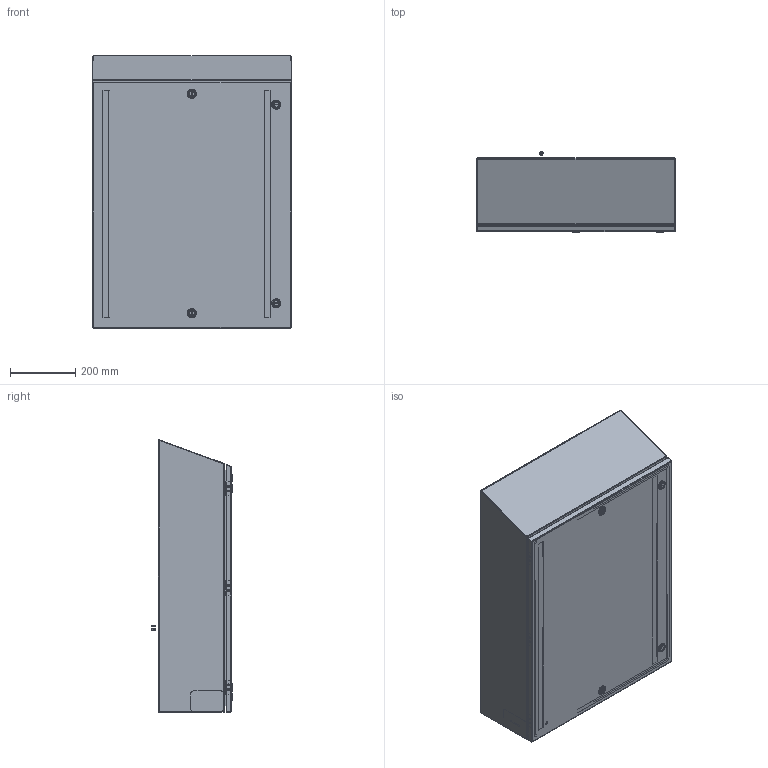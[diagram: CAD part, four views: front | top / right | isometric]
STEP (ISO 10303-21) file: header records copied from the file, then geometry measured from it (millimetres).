
FILE_DESCRIPTION(/* description */ ('Unknown'),/* implementation_level */ '2;1');
FILE_NAME(/* name */ 'ST302408SS',/* time_stamp */ '2018-12-05T13:57:06-05:00',/* author */ ('Unknown'),/* organization */ ('Unknown'),/* preprocessor_version */ 'ST-DEVELOPER v16.7',/* originating_system */ 'DEX',/* authorisation */ $);
FILE_SCHEMA (('AUTOMOTIVE_DESIGN {1 0 10303 214 3 1 1}'));
Length unit declared in the file: millimetre
Products named in the file (24): ST302408SS; KIT90674; NTS16535; NTS165305; BUL10020; BUL10136; QLB20184; PIN17645; HNG14573-1; std26107; STD26258; COM56115-7; HNG14573-2; COM53854; LOK10007; LOK10007nut; LOK10007INSERT; LOK10007SC; LOK10007CAM; COM70960-7; COM70220_oa_0; CAP02342
Assembly tree (39 placements, depth 3):
  ST302408SS
    KIT90674
      NTS16535
      NTS165305
      BUL10020
      BUL10136
    QLB20184
    PIN17645  x3
    HNG14573-1  x3
    std26107  x4
    STD26258
    COM56115-7
      HNG14573-2  x3
      STD26258
      COM56115-7
      COM53854  x2
    LOK10007  x4
      LOK10007nut
      LOK10007INSERT
      LOK10007SC
      LOK10007CAM
      LOK10007
    COM70960-7
    COM70220_oa_0
    CAP02342  x3
Bounding box: 609.6 x 249.96 x 835.22 mm (x, y, z)
Volume: 3350594.7 mm3; surface area: 3702774.2 mm2
Topology: 46 solids, 47 shells, 1215 faces, 2906 edges, 1855 vertices
Faces by surface type: plane 732, cylinder 251, bspline 146, torus 55, cone 31
Full cylindrical faces by diameter (mm): 4.369 x3, 4.976 x1, 5 x4, 5.74 x3, 6 x4, 6.096 x3, 6.35 x3, 6.985 x4, 7.417 x3, 7.938 x6, 9.83 x8, 10.109 x9, 11.557 x6, 12.7 x12, 13.335 x4, 15.875 x8, 16.002 x4, 19.5 x4, 19.939 x4, 27.94 x4
Entity records: 23981 total; most frequent: CARTESIAN_POINT 6923, ORIENTED_EDGE 3532, DIRECTION 2995, EDGE_CURVE 1766, LINE 1163, VECTOR 1163, VERTEX_POINT 1144, AXIS2_PLACEMENT_3D 916
